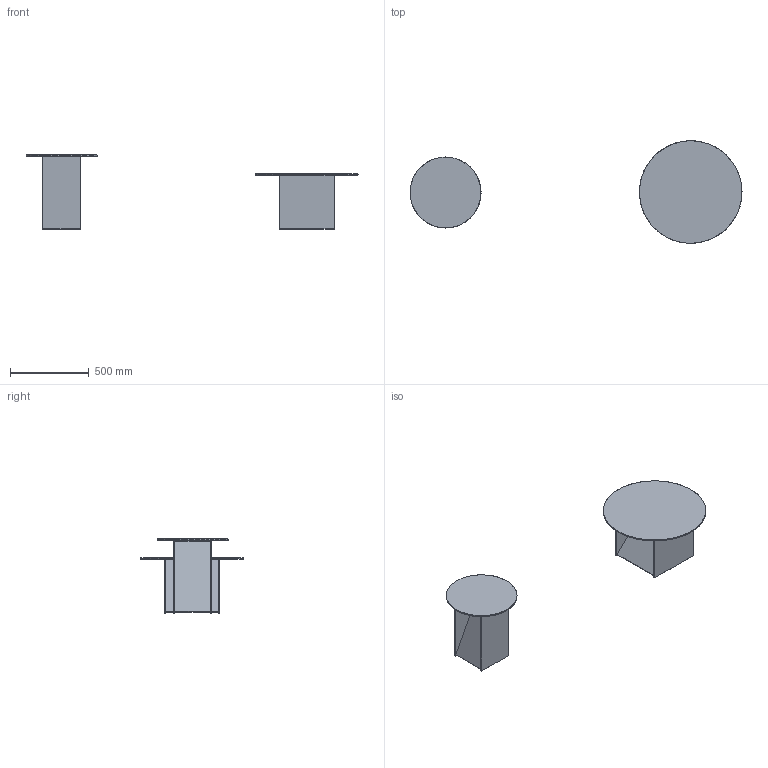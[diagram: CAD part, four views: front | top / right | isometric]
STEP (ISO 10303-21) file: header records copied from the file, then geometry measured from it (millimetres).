
FILE_DESCRIPTION ((), '1');
FILE_NAME ('N:\e15\ ENTWICKLUNG\LIBRARY\VEREINFACHTE 3D WEB\_Fertig\02_WEBSITE_2D_3D\CT11_KAISA\CT11_KAISA.stp', '2023-04-16T10:00:22', ('Unknown'), ('Unknown'), 'HarmonyWare STEP v2.1.0', 'Vectorworks', '');
FILE_SCHEMA (('CONFIG_CONTROL_DESIGN'));
Length unit declared in the file: millimetre
Bounding box: 2103.54 x 650 x 470 mm (x, y, z)
Volume: 9769571.9 mm3; surface area: 2478232.4 mm2
Topology: 2 solids, 2 shells, 91 faces, 203 edges, 120 vertices
Faces by surface type: bspline 91
Entity records: 2737 total; most frequent: CARTESIAN_POINT 1337, ORIENTED_EDGE 406, EDGE_CURVE 203, B_SPLINE_CURVE_WITH_KNOTS 197, VERTEX_POINT 120, EDGE_LOOP 99, FACE_OUTER_BOUND 91, ADVANCED_FACE 91
